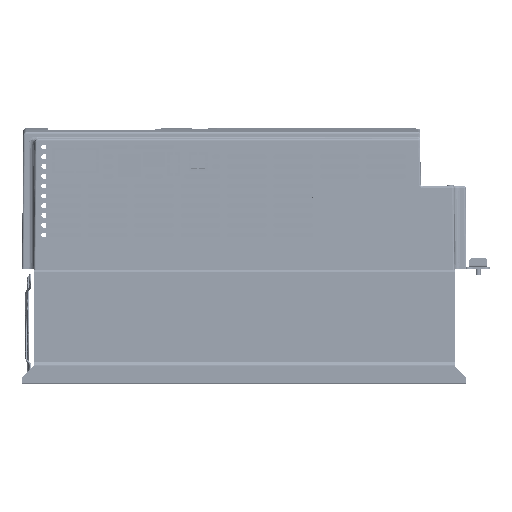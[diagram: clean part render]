
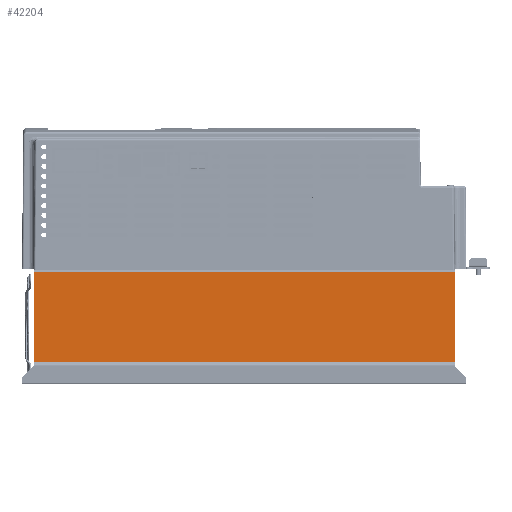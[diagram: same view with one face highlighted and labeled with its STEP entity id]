
A CAD part, left-side view. The second image highlights one B-rep face of the part: STEP entity #42204.
In plain terms, the highlighted planar face has unit normal (1, 0, 0).
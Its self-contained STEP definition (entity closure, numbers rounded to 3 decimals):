
#42165=DIRECTION('',(0.,1.,0.));
#42166=VECTOR('',#42165,322.);
#42167=CARTESIAN_POINT('',(-102.5,-161.,-3.5));
#42168=LINE('',#42167,#42166);
#42169=DIRECTION('',(0.,0.,-1.));
#42170=VECTOR('',#42169,68.454);
#42171=CARTESIAN_POINT('',(-102.5,161.,-3.5));
#42172=LINE('',#42171,#42170);
#42173=DIRECTION('',(0.,-1.,0.));
#42174=VECTOR('',#42173,322.);
#42175=CARTESIAN_POINT('',(-102.5,161.,-71.954));
#42176=LINE('',#42175,#42174);
#42177=DIRECTION('',(0.,0.,1.));
#42178=VECTOR('',#42177,68.454);
#42179=CARTESIAN_POINT('',(-102.5,-161.,-71.954));
#42180=LINE('',#42179,#42178);
#42181=CARTESIAN_POINT('',(-102.5,-161.,-3.5));
#42182=CARTESIAN_POINT('',(-102.5,161.,-3.5));
#42183=VERTEX_POINT('',#42181);
#42184=VERTEX_POINT('',#42182);
#42185=CARTESIAN_POINT('',(-102.5,161.,-71.954));
#42186=VERTEX_POINT('',#42185);
#42187=CARTESIAN_POINT('',(-102.5,-161.,-71.954));
#42188=VERTEX_POINT('',#42187);
#42189=CARTESIAN_POINT('',(-102.5,0.,-37.727));
#42190=DIRECTION('',(1.,0.,0.));
#42191=DIRECTION('',(0.,0.,1.));
#42192=AXIS2_PLACEMENT_3D('',#42189,#42190,#42191);
#42193=PLANE('',#42192);
#42195=ORIENTED_EDGE('',*,*,#42194,.T.);
#42197=ORIENTED_EDGE('',*,*,#42196,.T.);
#42199=ORIENTED_EDGE('',*,*,#42198,.T.);
#42201=ORIENTED_EDGE('',*,*,#42200,.T.);
#42202=EDGE_LOOP('',(#42195,#42197,#42199,#42201));
#42203=FACE_OUTER_BOUND('',#42202,.F.);
#42194=EDGE_CURVE('',#42183,#42184,#42168,.T.);
#42196=EDGE_CURVE('',#42184,#42186,#42172,.T.);
#42198=EDGE_CURVE('',#42186,#42188,#42176,.T.);
#42200=EDGE_CURVE('',#42188,#42183,#42180,.T.);
#42204=ADVANCED_FACE('',(#42203),#42193,.T.);
